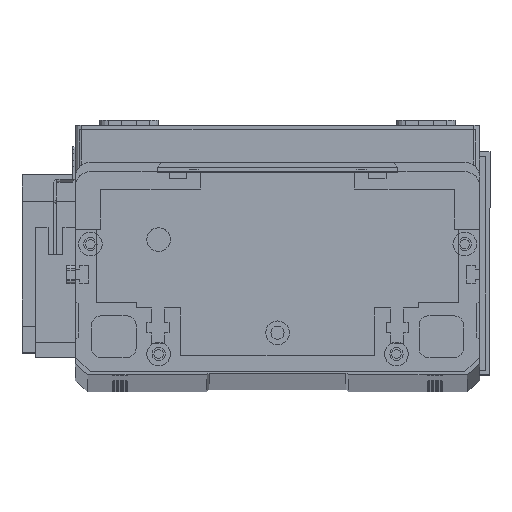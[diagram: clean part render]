
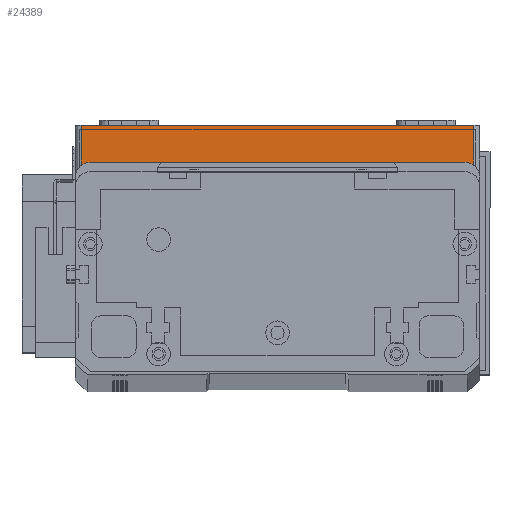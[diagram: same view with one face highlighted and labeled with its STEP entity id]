
A CAD part, top view. The second image highlights one B-rep face of the part: STEP entity #24389.
In plain terms, the highlighted planar face has unit normal (0, 0, 1) as drawn and (0, -1, 0) by its records, which use the part's own axes.
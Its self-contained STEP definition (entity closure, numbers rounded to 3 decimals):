
#2002 = VECTOR ( 'NONE', #6779, 1000. ) ;
#3927 = PLANE ( 'NONE',  #8053 ) ;
#4331 = CARTESIAN_POINT ( 'NONE',  ( 0., 0., 0. ) ) ;
#6376 = DIRECTION ( 'NONE',  ( 0., 1., 0. ) ) ;
#6621 = VERTEX_POINT ( 'NONE', #27878 ) ;
#6779 = DIRECTION ( 'NONE',  ( 1., 0., 0. ) ) ;
#7304 = EDGE_CURVE ( 'NONE', #6621, #11571, #24817, .T. ) ;
#7425 = EDGE_CURVE ( 'NONE', #17156, #31100, #21775, .T. ) ;
#8053 = AXIS2_PLACEMENT_3D ( 'NONE', #30377, #6376, #23373 ) ;
#8540 = CARTESIAN_POINT ( 'NONE',  ( 134., 0., 0. ) ) ;
#9881 = ORIENTED_EDGE ( 'NONE', *, *, #26302, .T. ) ;
#10659 = LINE ( 'NONE', #28041, #28434 ) ;
#11571 = VERTEX_POINT ( 'NONE', #14166 ) ;
#14166 = CARTESIAN_POINT ( 'NONE',  ( 2., 0., 0. ) ) ;
#14481 = ORIENTED_EDGE ( 'NONE', *, *, #7425, .T. ) ;
#14978 = LINE ( 'NONE', #4331, #2002 ) ;
#16355 = CARTESIAN_POINT ( 'NONE',  ( 2., 0., 19.5 ) ) ;
#16775 = DIRECTION ( 'NONE',  ( 0., 0., 1. ) ) ;
#17048 = ORIENTED_EDGE ( 'NONE', *, *, #7304, .T. ) ;
#17156 = VERTEX_POINT ( 'NONE', #8540 ) ;
#18462 = DIRECTION ( 'NONE',  ( 1., 0., 0. ) ) ;
#18716 = EDGE_LOOP ( 'NONE', ( #27061, #17048, #9881, #14481 ) ) ;
#19282 = FACE_OUTER_BOUND ( 'NONE', #18716, .T. ) ;
#20887 = EDGE_CURVE ( 'NONE', #6621, #31100, #10659, .T. ) ;
#21609 = CARTESIAN_POINT ( 'NONE',  ( 134., 0., 19.5 ) ) ;
#21775 = LINE ( 'NONE', #21609, #28197 ) ;
#23373 = DIRECTION ( 'NONE',  ( 0., 0., 1. ) ) ;
#24389 = ADVANCED_FACE ( 'NONE', ( #19282 ), #3927, .F. ) ;
#24817 = LINE ( 'NONE', #16355, #30437 ) ;
#26302 = EDGE_CURVE ( 'NONE', #11571, #17156, #14978, .T. ) ;
#26875 = CARTESIAN_POINT ( 'NONE',  ( 134., 0., 19.5 ) ) ;
#27061 = ORIENTED_EDGE ( 'NONE', *, *, #20887, .F. ) ;
#27878 = CARTESIAN_POINT ( 'NONE',  ( 2., 0., 19.5 ) ) ;
#28041 = CARTESIAN_POINT ( 'NONE',  ( 0., 0., 19.5 ) ) ;
#28197 = VECTOR ( 'NONE', #16775, 1000. ) ;
#28259 = DIRECTION ( 'NONE',  ( 0., 0., -1. ) ) ;
#28434 = VECTOR ( 'NONE', #18462, 1000. ) ;
#30377 = CARTESIAN_POINT ( 'NONE',  ( 0., 0., 19.5 ) ) ;
#30437 = VECTOR ( 'NONE', #28259, 1000. ) ;
#31100 = VERTEX_POINT ( 'NONE', #26875 ) ;
